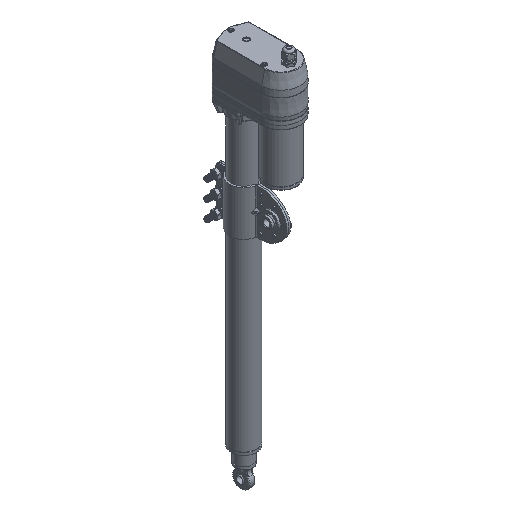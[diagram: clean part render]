
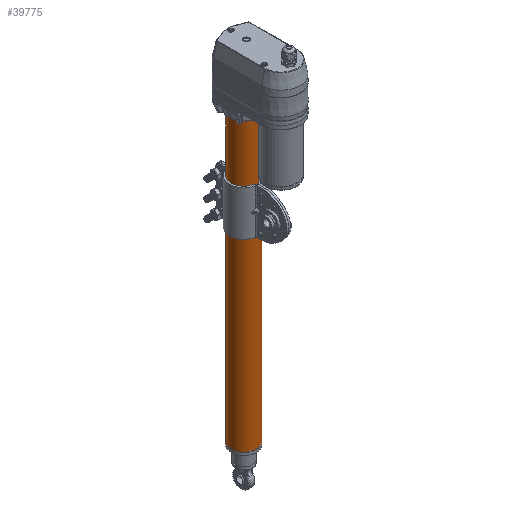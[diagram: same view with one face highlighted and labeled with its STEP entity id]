
A CAD part, isometric view. The second image highlights one B-rep face of the part: STEP entity #39775.
In plain terms, the highlighted cylindrical face has radius 25.4 mm (diameter 50.8 mm), a full revolution.
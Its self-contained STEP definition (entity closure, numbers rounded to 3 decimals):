
#362 = CARTESIAN_POINT ( 'NONE',  ( 25.4, 0., -661.75 ) ) ;
#1128 = DIRECTION ( 'NONE',  ( 1., 0., 0. ) ) ;
#4218 = CARTESIAN_POINT ( 'NONE',  ( 0., 0., -661.75 ) ) ;
#6181 = EDGE_CURVE ( 'NONE', #39567, #39567, #24736, .T. ) ;
#7634 = DIRECTION ( 'NONE',  ( 1., 0., 0. ) ) ;
#11725 = EDGE_LOOP ( 'NONE', ( #34108 ) ) ;
#19508 = CARTESIAN_POINT ( 'NONE',  ( 0., 0., -83.664 ) ) ;
#22978 = DIRECTION ( 'NONE',  ( 1., 0., 0. ) ) ;
#24736 = CIRCLE ( 'NONE', #43229, 25.4 ) ;
#25030 = CARTESIAN_POINT ( 'NONE',  ( 0., 0., 0. ) ) ;
#25175 = CYLINDRICAL_SURFACE ( 'NONE', #40085, 25.4 ) ;
#26245 = FACE_OUTER_BOUND ( 'NONE', #11725, .T. ) ;
#28113 = DIRECTION ( 'NONE',  ( 0., 0., 1. ) ) ;
#31763 = DIRECTION ( 'NONE',  ( 0., 0., 1. ) ) ;
#32843 = AXIS2_PLACEMENT_3D ( 'NONE', #4218, #28113, #7634 ) ;
#34108 = ORIENTED_EDGE ( 'NONE', *, *, #6181, .F. ) ;
#34312 = EDGE_CURVE ( 'NONE', #41713, #41713, #36036, .T. ) ;
#35348 = FACE_OUTER_BOUND ( 'NONE', #35835, .T. ) ;
#35835 = EDGE_LOOP ( 'NONE', ( #39710 ) ) ;
#36036 = CIRCLE ( 'NONE', #32843, 25.4 ) ;
#39567 = VERTEX_POINT ( 'NONE', #42829 ) ;
#39710 = ORIENTED_EDGE ( 'NONE', *, *, #34312, .T. ) ;
#39775 = ADVANCED_FACE ( 'NONE', ( #26245, #35348 ), #25175, .T. ) ;
#40085 = AXIS2_PLACEMENT_3D ( 'NONE', #25030, #31763, #1128 ) ;
#41713 = VERTEX_POINT ( 'NONE', #362 ) ;
#42829 = CARTESIAN_POINT ( 'NONE',  ( 25.4, 0., -83.664 ) ) ;
#43229 = AXIS2_PLACEMENT_3D ( 'NONE', #19508, #43431, #22978 ) ;
#43431 = DIRECTION ( 'NONE',  ( 0., 0., 1. ) ) ;
